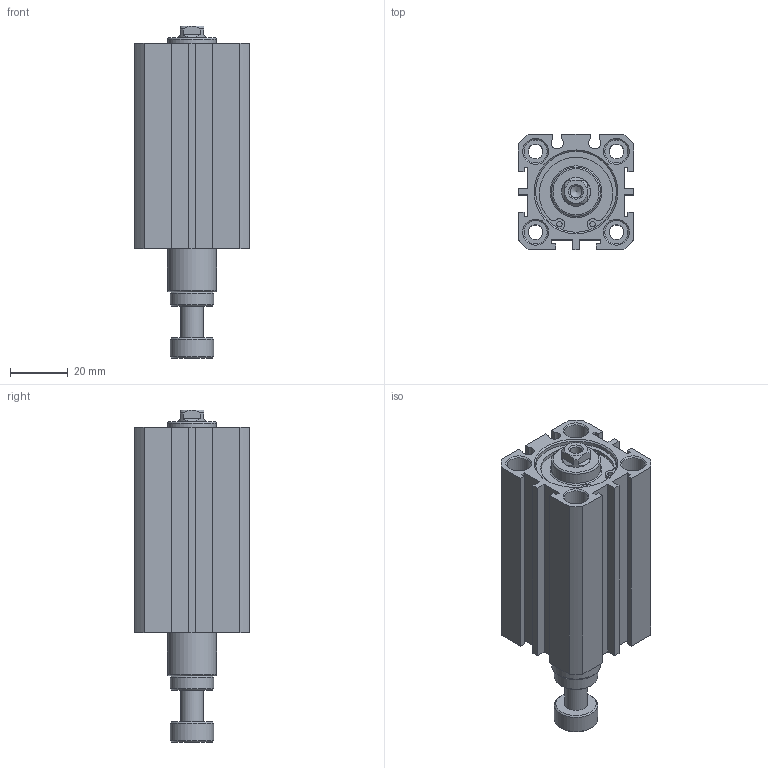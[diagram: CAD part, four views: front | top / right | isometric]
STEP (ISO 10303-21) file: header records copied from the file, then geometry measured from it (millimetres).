
FILE_DESCRIPTION((''),'2;1');
FILE_NAME('I:\3D電子目錄\氣缸\JDAR\JDAR\JDAR25\JDAR25x50.stp','2007-03-14T09:48:08',('662F206'),(''),'Autodesk Inventor 11','Autodesk Inventor 11','');
FILE_SCHEMA(('AUTOMOTIVE_DESIGN { 1 0 10303 214 1 1 1 1 }'));
Length unit declared in the file: millimetre
Products named in the file (3): JDAR25; R 形環 28
Assembly tree (3 placements, depth 2):
  JDAR25
    JDAR25
    R 形環 28  x2
Bounding box: 40 x 40 x 115.1 mm (x, y, z)
Volume: 97822.1 mm3; surface area: 28572.7 mm2
Topology: 3 solids, 3 shells, 165 faces, 384 edges, 249 vertices
Faces by surface type: plane 86, cylinder 48, cone 21, bspline 8, torus 2
Full cylindrical faces by diameter (mm): 1.5 x2, 1.9 x4, 5.1 x4, 8 x9, 10 x1, 15 x2, 17 x2, 28 x4, 29.4 x2
Entity records: 4249 total; most frequent: CARTESIAN_POINT 853, DIRECTION 706, ORIENTED_EDGE 588, EDGE_CURVE 294, AXIS2_PLACEMENT_3D 269, EDGE_LOOP 242, VERTEX_POINT 222, VECTOR 168
